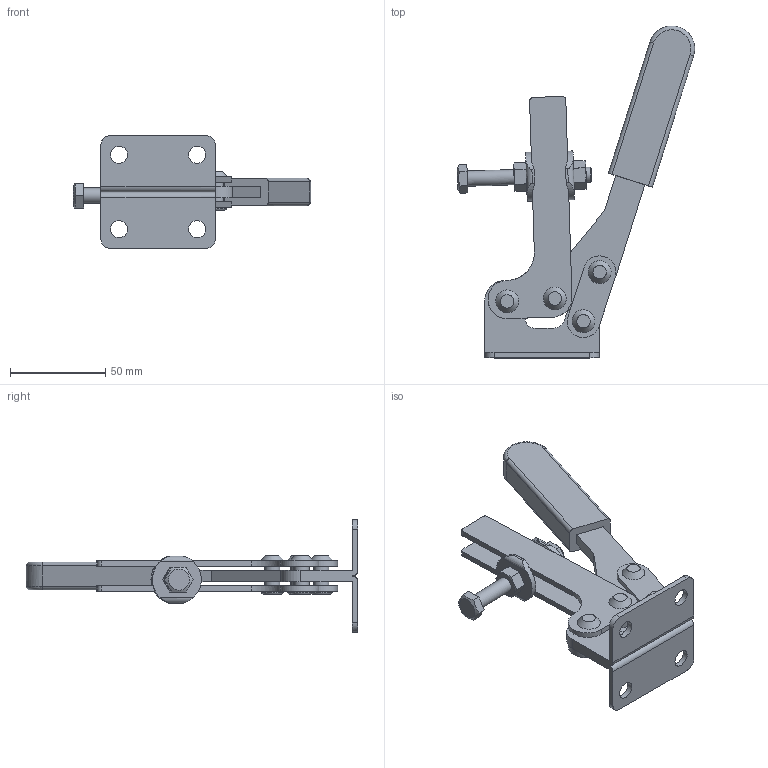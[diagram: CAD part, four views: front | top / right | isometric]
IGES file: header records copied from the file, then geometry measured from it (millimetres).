
Global section: file name: No.43A (ul); native system: Autodesk Inventor 2020; preprocessor: unknown; author: y-takahashi; date: 20211202.164813; units: millimetre
Bounding box: 124.49 x 174.01 x 59 mm (x, y, z)
Volume: 84988.8 mm3; surface area: 52405 mm2
Topology: 16 solids, 16 shells, 226 faces, 551 edges, 371 vertices
Faces by surface type: bspline 226
